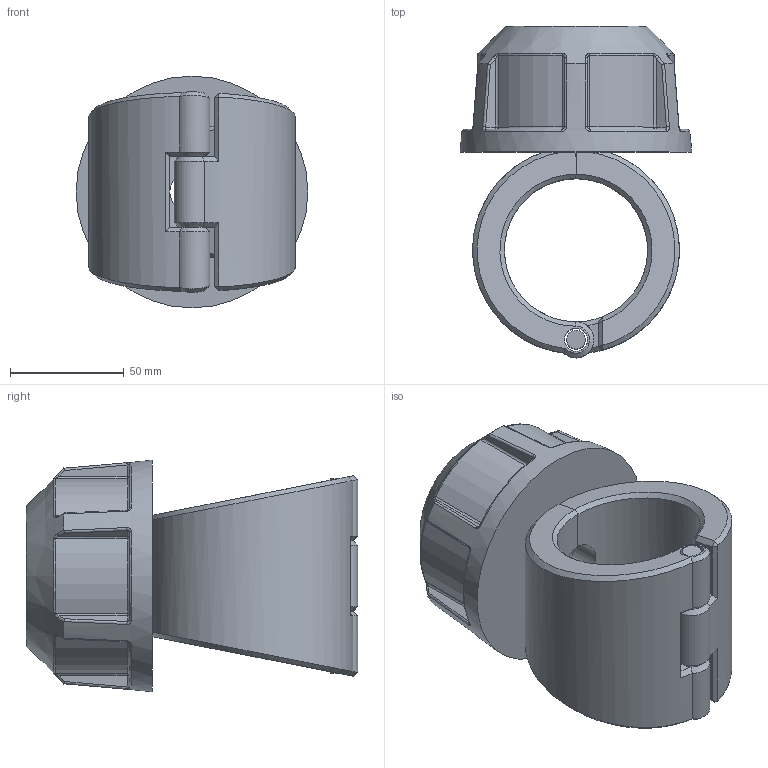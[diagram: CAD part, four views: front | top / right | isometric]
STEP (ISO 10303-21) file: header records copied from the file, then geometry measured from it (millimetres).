
FILE_DESCRIPTION(/* description */ ('Plassadle Threaded 63x1 1/4'''''),/* implementation_level */ '2;1');
FILE_NAME(/* name */ 'C:\Users\comp2\Dropbox\99-16-3568-Processing\Mechanical Fittings\16300\stp\163000063013.stp',/* time_stamp */ '2022-02-03T11:46:48+00:00',/* author */ ('comp2'),/* organization */ (''),/* preprocessor_version */ 'ST-DEVELOPER v17.2',/* originating_system */ 'Autodesk Inventor 2019',/* authorisation */ '');
FILE_SCHEMA (('AUTOMOTIVE_DESIGN { 1 0 10303 214 3 1 1 }'));
Length unit declared in the file: millimetre
Products named in the file (1): 163000063013
Bounding box: 102 x 146 x 102 mm (x, y, z)
Volume: 512700.8 mm3; surface area: 83153.6 mm2
Topology: 4 solids, 4 shells, 203 faces, 486 edges, 293 vertices
Faces by surface type: bspline 58, plane 53, cylinder 47, torus 18, cone 15, sphere 12
Full cylindrical faces by diameter (mm): 8.22 x1, 10.22 x3, 19.476 x1, 33.109 x1, 38.952 x1, 58.428 x1
Entity records: 8185 total; most frequent: CARTESIAN_POINT 3838, ORIENTED_EDGE 972, DIRECTION 781, EDGE_CURVE 486, AXIS2_PLACEMENT_3D 330, VERTEX_POINT 293, EDGE_LOOP 213, FACE_OUTER_BOUND 203
